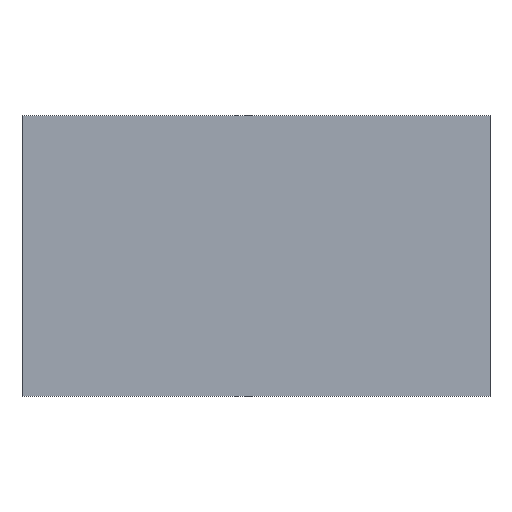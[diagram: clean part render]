
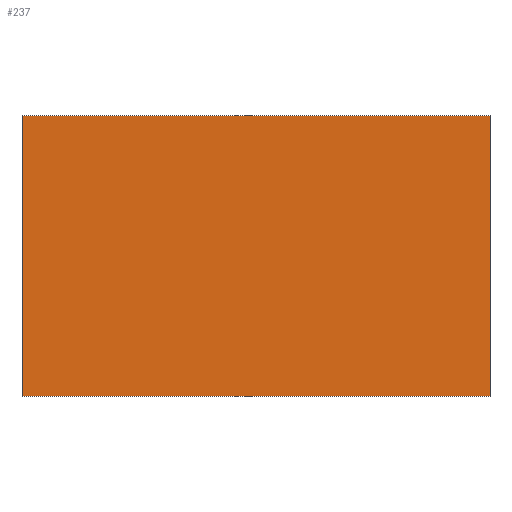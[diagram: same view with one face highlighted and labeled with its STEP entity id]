
A CAD part, front view. The second image highlights one B-rep face of the part: STEP entity #237.
In plain terms, the highlighted planar face has unit normal (0, -1, 0).
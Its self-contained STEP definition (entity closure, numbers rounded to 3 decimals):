
#21 = EDGE_CURVE('',#22,#24,#26,.T.);
#22 = VERTEX_POINT('',#23);
#23 = CARTESIAN_POINT('',(238.,-335.,37.));
#24 = VERTEX_POINT('',#25);
#25 = CARTESIAN_POINT('',(238.,-335.,82.));
#26 = SURFACE_CURVE('',#27,(#31,#43),.PCURVE_S1.);
#27 = LINE('',#28,#29);
#28 = CARTESIAN_POINT('',(238.,-335.,37.));
#29 = VECTOR('',#30,1.);
#30 = DIRECTION('',(0.,0.,1.));
#31 = PCURVE('',#32,#37);
#32 = PLANE('',#33);
#33 = AXIS2_PLACEMENT_3D('',#34,#35,#36);
#34 = CARTESIAN_POINT('',(238.,-335.,37.));
#35 = DIRECTION('',(1.,0.,-0.));
#36 = DIRECTION('',(0.,0.,1.));
#37 = DEFINITIONAL_REPRESENTATION('',(#38),#42);
#38 = LINE('',#39,#40);
#39 = CARTESIAN_POINT('',(0.,0.));
#40 = VECTOR('',#41,1.);
#41 = DIRECTION('',(1.,0.));
#42 = ( GEOMETRIC_REPRESENTATION_CONTEXT(2) 
PARAMETRIC_REPRESENTATION_CONTEXT() REPRESENTATION_CONTEXT('2D SPACE',''
  ) );
#43 = PCURVE('',#44,#49);
#44 = PLANE('',#45);
#45 = AXIS2_PLACEMENT_3D('',#46,#47,#48);
#46 = CARTESIAN_POINT('',(238.,-335.,37.));
#47 = DIRECTION('',(-0.,1.,0.));
#48 = DIRECTION('',(0.,0.,1.));
#49 = DEFINITIONAL_REPRESENTATION('',(#50),#54);
#50 = LINE('',#51,#52);
#51 = CARTESIAN_POINT('',(0.,0.));
#52 = VECTOR('',#53,1.);
#53 = DIRECTION('',(1.,0.));
#54 = ( GEOMETRIC_REPRESENTATION_CONTEXT(2) 
PARAMETRIC_REPRESENTATION_CONTEXT() REPRESENTATION_CONTEXT('2D SPACE',''
  ) );
#72 = PLANE('',#73);
#73 = AXIS2_PLACEMENT_3D('',#74,#75,#76);
#74 = CARTESIAN_POINT('',(238.,-335.,37.));
#75 = DIRECTION('',(0.,0.,1.));
#76 = DIRECTION('',(1.,0.,-0.));
#126 = PLANE('',#127);
#127 = AXIS2_PLACEMENT_3D('',#128,#129,#130);
#128 = CARTESIAN_POINT('',(238.,-335.,82.));
#129 = DIRECTION('',(0.,0.,1.));
#130 = DIRECTION('',(1.,0.,-0.));
#141 = EDGE_CURVE('',#142,#144,#146,.T.);
#142 = VERTEX_POINT('',#143);
#143 = CARTESIAN_POINT('',(313.,-335.,37.));
#144 = VERTEX_POINT('',#145);
#145 = CARTESIAN_POINT('',(313.,-335.,82.));
#146 = SURFACE_CURVE('',#147,(#151,#163),.PCURVE_S1.);
#147 = LINE('',#148,#149);
#148 = CARTESIAN_POINT('',(313.,-335.,37.));
#149 = VECTOR('',#150,1.);
#150 = DIRECTION('',(0.,0.,1.));
#151 = PCURVE('',#152,#157);
#152 = PLANE('',#153);
#153 = AXIS2_PLACEMENT_3D('',#154,#155,#156);
#154 = CARTESIAN_POINT('',(313.,-335.,37.));
#155 = DIRECTION('',(1.,0.,-0.));
#156 = DIRECTION('',(0.,0.,1.));
#157 = DEFINITIONAL_REPRESENTATION('',(#158),#162);
#158 = LINE('',#159,#160);
#159 = CARTESIAN_POINT('',(0.,0.));
#160 = VECTOR('',#161,1.);
#161 = DIRECTION('',(1.,0.));
#162 = ( GEOMETRIC_REPRESENTATION_CONTEXT(2) 
PARAMETRIC_REPRESENTATION_CONTEXT() REPRESENTATION_CONTEXT('2D SPACE',''
  ) );
#163 = PCURVE('',#44,#164);
#164 = DEFINITIONAL_REPRESENTATION('',(#165),#169);
#165 = LINE('',#166,#167);
#166 = CARTESIAN_POINT('',(0.,75.));
#167 = VECTOR('',#168,1.);
#168 = DIRECTION('',(1.,0.));
#169 = ( GEOMETRIC_REPRESENTATION_CONTEXT(2) 
PARAMETRIC_REPRESENTATION_CONTEXT() REPRESENTATION_CONTEXT('2D SPACE',''
  ) );
#237 = ADVANCED_FACE('',(#238),#44,.F.);
#238 = FACE_BOUND('',#239,.F.);
#239 = EDGE_LOOP('',(#240,#261,#262,#283));
#240 = ORIENTED_EDGE('',*,*,#241,.F.);
#241 = EDGE_CURVE('',#22,#142,#242,.T.);
#242 = SURFACE_CURVE('',#243,(#247,#254),.PCURVE_S1.);
#243 = LINE('',#244,#245);
#244 = CARTESIAN_POINT('',(238.,-335.,37.));
#245 = VECTOR('',#246,1.);
#246 = DIRECTION('',(1.,0.,-0.));
#247 = PCURVE('',#44,#248);
#248 = DEFINITIONAL_REPRESENTATION('',(#249),#253);
#249 = LINE('',#250,#251);
#250 = CARTESIAN_POINT('',(0.,0.));
#251 = VECTOR('',#252,1.);
#252 = DIRECTION('',(0.,1.));
#253 = ( GEOMETRIC_REPRESENTATION_CONTEXT(2) 
PARAMETRIC_REPRESENTATION_CONTEXT() REPRESENTATION_CONTEXT('2D SPACE',''
  ) );
#254 = PCURVE('',#72,#255);
#255 = DEFINITIONAL_REPRESENTATION('',(#256),#260);
#256 = LINE('',#257,#258);
#257 = CARTESIAN_POINT('',(0.,0.));
#258 = VECTOR('',#259,1.);
#259 = DIRECTION('',(1.,0.));
#260 = ( GEOMETRIC_REPRESENTATION_CONTEXT(2) 
PARAMETRIC_REPRESENTATION_CONTEXT() REPRESENTATION_CONTEXT('2D SPACE',''
  ) );
#261 = ORIENTED_EDGE('',*,*,#21,.T.);
#262 = ORIENTED_EDGE('',*,*,#263,.T.);
#263 = EDGE_CURVE('',#24,#144,#264,.T.);
#264 = SURFACE_CURVE('',#265,(#269,#276),.PCURVE_S1.);
#265 = LINE('',#266,#267);
#266 = CARTESIAN_POINT('',(238.,-335.,82.));
#267 = VECTOR('',#268,1.);
#268 = DIRECTION('',(1.,0.,-0.));
#269 = PCURVE('',#44,#270);
#270 = DEFINITIONAL_REPRESENTATION('',(#271),#275);
#271 = LINE('',#272,#273);
#272 = CARTESIAN_POINT('',(45.,0.));
#273 = VECTOR('',#274,1.);
#274 = DIRECTION('',(0.,1.));
#275 = ( GEOMETRIC_REPRESENTATION_CONTEXT(2) 
PARAMETRIC_REPRESENTATION_CONTEXT() REPRESENTATION_CONTEXT('2D SPACE',''
  ) );
#276 = PCURVE('',#126,#277);
#277 = DEFINITIONAL_REPRESENTATION('',(#278),#282);
#278 = LINE('',#279,#280);
#279 = CARTESIAN_POINT('',(0.,0.));
#280 = VECTOR('',#281,1.);
#281 = DIRECTION('',(1.,0.));
#282 = ( GEOMETRIC_REPRESENTATION_CONTEXT(2) 
PARAMETRIC_REPRESENTATION_CONTEXT() REPRESENTATION_CONTEXT('2D SPACE',''
  ) );
#283 = ORIENTED_EDGE('',*,*,#141,.F.);
